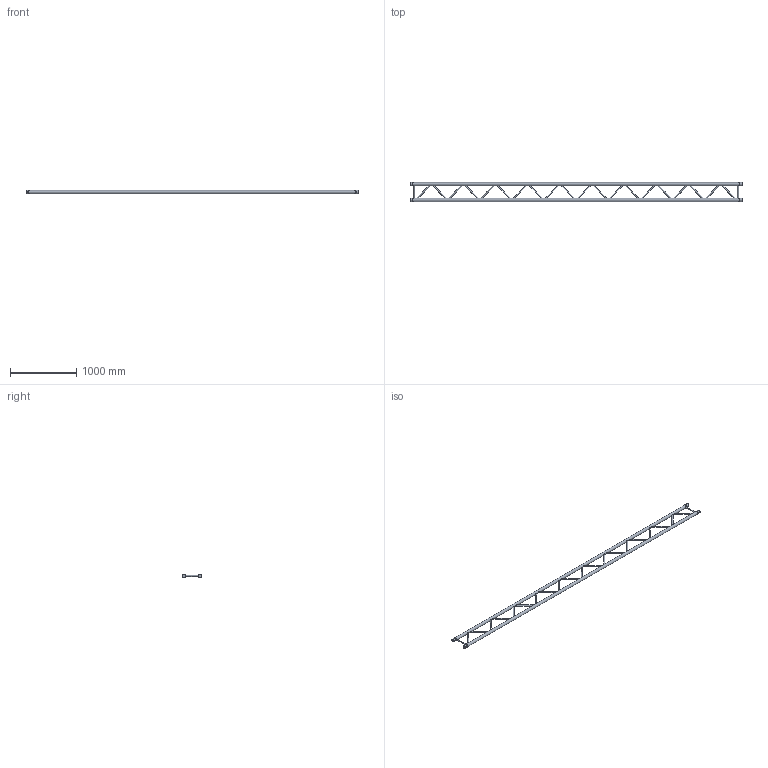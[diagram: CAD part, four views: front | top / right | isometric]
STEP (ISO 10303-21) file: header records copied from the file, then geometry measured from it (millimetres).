
FILE_DESCRIPTION(/* description */ (''),/* implementation_level */ '2;1');
FILE_NAME(/* name */ 'C:\Users\stephan\Desktop\Nieuwe map\H30L\111050057.stp',/* time_stamp */ '2016-09-12T12:02:16+02:00',/* author */ ('Stephan'),/* organization */ (''),/* preprocessor_version */ 'ST-DEVELOPER v15.6',/* originating_system */ 'Autodesk Inventor 2015',/* authorisation */ '');
FILE_SCHEMA (('AUTOMOTIVE_DESIGN { 1 0 10303 214 3 1 1 }'));
Length unit declared in the file: millimetre
Products named in the file (1): 160026977
Bounding box: 5000 x 287.3 x 48.3 mm (x, y, z)
Volume: 5691360.7 mm3; surface area: 3152409.9 mm2
Topology: 24 solids, 26 shells, 186 faces, 342 edges, 212 vertices
Faces by surface type: plane 104, cylinder 78, cone 4
Full cylindrical faces by diameter (mm): 10 x4, 16 x22, 41.8 x4, 42.3 x2, 48.3 x6
Entity records: 4858 total; most frequent: CARTESIAN_POINT 1335, DIRECTION 610, ORIENTED_EDGE 600, EDGE_CURVE 296, AXIS2_PLACEMENT_3D 263, EDGE_LOOP 248, VERTEX_POINT 212, STYLED_ITEM 147
